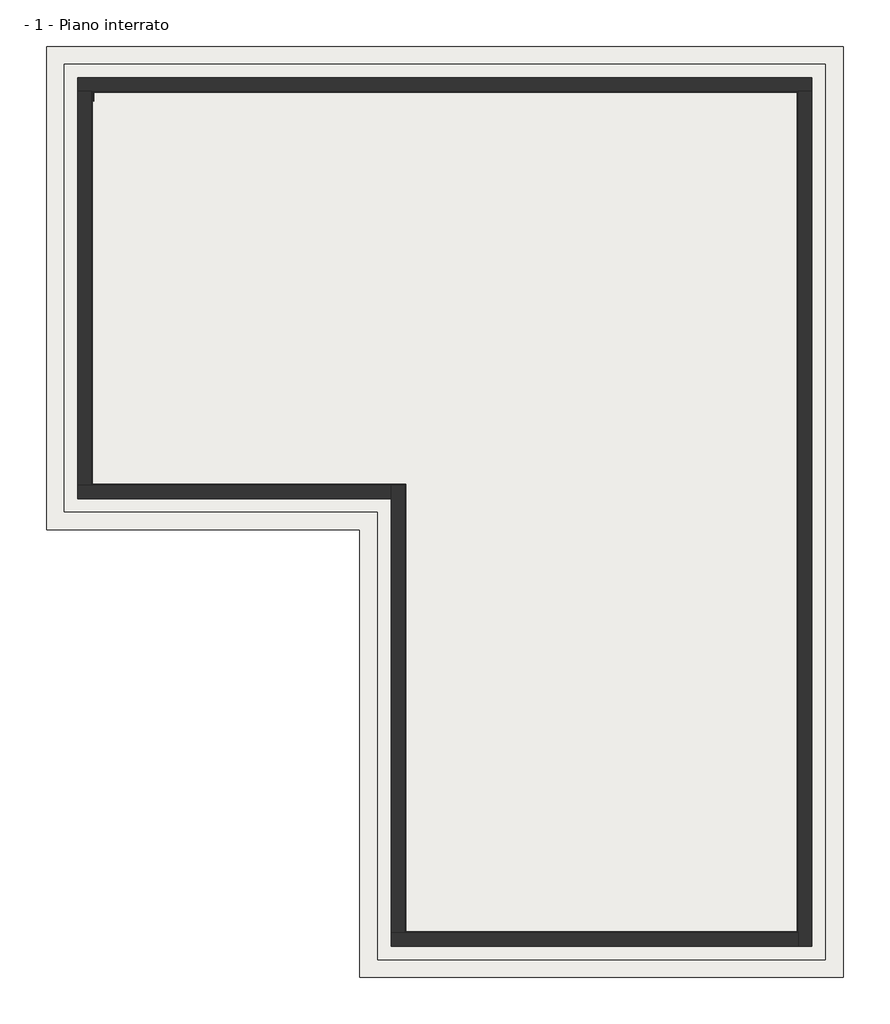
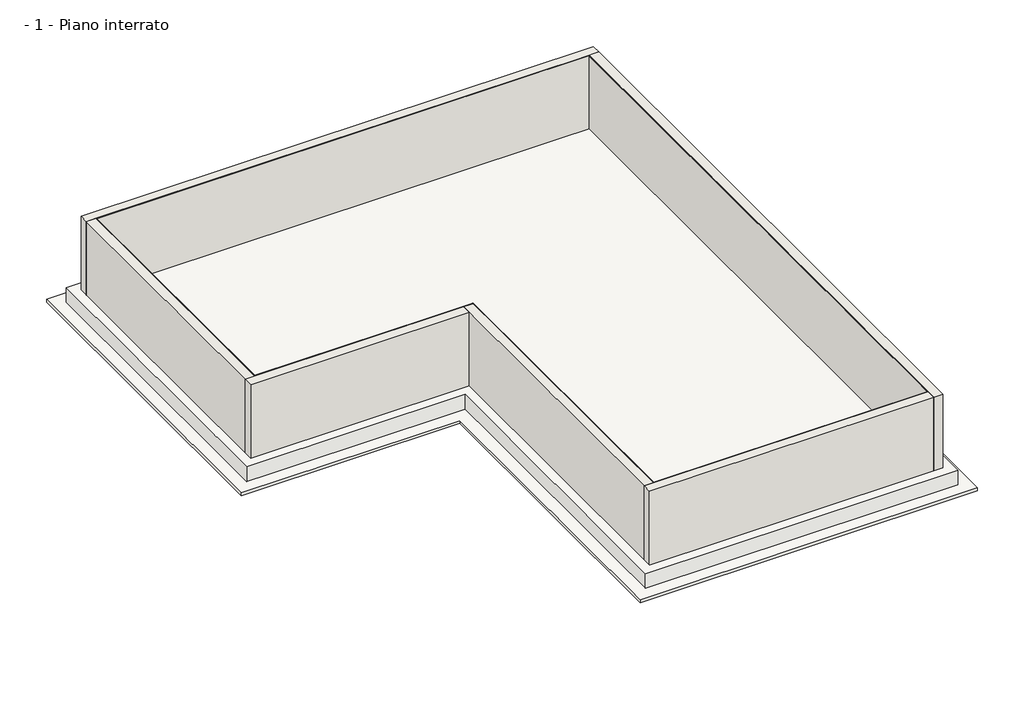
# One storey: 24 walls, 3 slabs, 1 proxy.
"""IFC4 building model written with IfcOpenShell, lengths in millimetres."""

from ifc_helpers import new_model, si_unit, frame, origin, place, context, project, spatial, polyline, outline, extrude, faceted_brep, transform, mapped, element, save
from components import generic_models_3b7ed561

model = new_model("IFC4")

# Units and contexts
model_context = context("Model", 3, world=origin())
ifc_project = project(units=[si_unit("LENGTHUNIT", "METRE", prefix="MILLI")], contexts=[model_context])

# Site, building, storey
site = spatial("IfcSite", under=ifc_project)
building = spatial("IfcBuilding", under=site)
storey = spatial("IfcBuildingStorey", under=building, Name="- 1 - Piano interrato", Elevation=-2500.0)

# Proxy
placement = place(None, origin())
generic_models_shape = generic_models_3b7ed561(model_context)
element("IfcBuildingElementProxy", 1, Name="ITA-Connettori su parete verticale sigillati con AKTI-VO 201 : ITA-Connettori su parete verticale sigillati con AKTI-VO 201", ObjectType="ITA-Connettori su parete verticale sigillati con AKTI-VO 201 : ITA-Connettori su parete verticale sigillati con AKTI-VO 201", at=placement, inside=storey, context=model_context, shape_type="MappedRepresentation", body=[
    mapped(generic_models_shape, transform((-5473.8968209, 9007.648913, -2480.7395958), x_axis=(1.0, 0.0, 0.0), y_axis=(0.0, 0.0, 1.0), z_axis=(0.0, -1.0, 0.0))),
])

# Slabs
element("IfcSlab", 2, ObjectType="BI MORTAR LEVELLING SEAL VOLTECO", at=placement, inside=storey, context=model_context, shape_type="SweptSolid", body=[
    extrude(outline(polyline([(10251.1031791, 9007.648913), (10251.1031791, -9750.351087), (1493.1031791, -9750.351087), (1493.1031791, 249.648913), (-5506.8968209, 249.648913), (-5506.8968209, 9007.648913), (10251.1031791, 9007.648913)])), frame((0.0, 0.0, -2500.0), z_axis=(0.0, 0.0, 1.0), x_axis=(1.0, 0.0, 0.0)), (0.0, 0.0, 1.0), 20.0),
])
element("IfcSlab", 3, ObjectType="Magrone - 10 cm", at=placement, inside=storey, context=model_context, shape_type="SweptSolid", body=[
    extrude(outline(polyline([(-6527.8968209, 10028.648913), (11272.1031791, 10028.648913), (11272.1031791, -10771.351087), (472.1031791, -10771.351087), (472.1031791, -771.351087), (-6527.8968209, -771.351087), (-6527.8968209, 10028.648913)])), frame((0.0, 0.0, -3100.0), z_axis=(0.0, 0.0, 1.0), x_axis=(1.0, 0.0, 0.0)), (0.0, 0.0, 1.0), 100.0),
])
element("IfcSlab", 4, ObjectType="Platea - 50 cm", at=placement, inside=storey, context=model_context, shape_type="SweptSolid", body=[
    extrude(outline(polyline([(-6127.8968209, -371.351087), (-6127.8968209, 9628.648913), (10872.1031791, 9628.648913), (10872.1031791, -10371.351087), (872.1031791, -10371.351087), (872.1031791, -371.351087), (-6127.8968209, -371.351087)])), frame((0.0, 0.0, -3000.0), z_axis=(0.0, 0.0, 1.0), x_axis=(1.0, 0.0, 0.0)), (0.0, 0.0, 1.0), 500.0),
])

# Walls
element("IfcWall", 5, ObjectType="BI MORTAR PLASTER SEAL VOLTECO", at=placement, inside=storey, context=model_context, shape_type="Brep", body=[
    faceted_brep([(-5517.8968209, 228.648913, -2500.0), (-5517.8968209, 238.648913, -2500.0), (-5517.8968209, 239.648913, -2500.0), (-5517.8968209, 9018.648913, -2500.0), (-5517.8968209, 9028.648913, -2500.0), (-5517.8968209, 9028.648913, 0.0), (-5517.8968209, 9018.648913, 0.0), (-5517.8968209, 239.648913, 0.0), (-5517.8968209, 238.648913, 0.0), (-5517.8968209, 228.648913, 0.0), (-5527.8968209, 228.648913, -2500.0), (-5527.8968209, 228.648913, 0.0), (-5527.8968209, 9028.648913, 0.0), (-5527.8968209, 9028.648913, -2500.0)], [[[0, 1, 2, 3, 4, 5, 6, 7, 8, 9]], [[10, 11, 12, 13]], [[4, 3, 2, 1, 0, 10, 13]], [[9, 8, 7, 6, 5, 12, 11]], [[5, 4, 13, 12]], [[0, 9, 11, 10]]]),
])
element("IfcWall", 6, ObjectType="BI MORTAR PLASTER SEAL VOLTECO", at=placement, inside=storey, context=model_context, shape_type="Brep", body=[
    faceted_brep([(-5517.8968209, 9018.648913, -2500.0), (-5516.8968209, 9018.648913, -2500.0), (10262.1031791, 9018.648913, -2500.0), (10272.1031791, 9018.648913, -2500.0), (10272.1031791, 9018.648913, 0.0), (10262.1031791, 9018.648913, 0.0), (-5516.8968209, 9018.648913, 0.0), (-5517.8968209, 9018.648913, 0.0), (-5517.8968209, 9028.648913, -2500.0), (-5517.8968209, 9028.648913, 0.0), (10272.1031791, 9028.648913, 0.0), (10272.1031791, 9028.648913, -2500.0)], [[[0, 1, 2, 3, 4, 5, 6, 7]], [[8, 9, 10, 11]], [[3, 2, 1, 0, 8, 11]], [[7, 6, 5, 4, 10, 9]], [[4, 3, 11, 10]], [[0, 7, 9, 8]]]),
])
element("IfcWall", 7, ObjectType="BI MORTAR PLASTER SEAL VOLTECO", at=placement, inside=storey, context=model_context, shape_type="Brep", body=[
    faceted_brep([(10272.1031791, -9761.351087, -2500.0), (10262.1031791, -9761.351087, -2500.0), (10261.1031791, -9761.351087, -2500.0), (1482.1031791, -9761.351087, -2500.0), (1472.1031791, -9761.351087, -2500.0), (1472.1031791, -9761.351087, 0.0), (1482.1031791, -9761.351087, 0.0), (10261.1031791, -9761.351087, 0.0), (10262.1031791, -9761.351087, 0.0), (10272.1031791, -9761.351087, 0.0), (10272.1031791, -9771.351087, -2500.0), (10272.1031791, -9771.351087, 0.0), (1472.1031791, -9771.351087, 0.0), (1472.1031791, -9771.351087, -2500.0)], [[[0, 1, 2, 3, 4, 5, 6, 7, 8, 9]], [[10, 11, 12, 13]], [[4, 3, 2, 1, 0, 10, 13]], [[9, 8, 7, 6, 5, 12, 11]], [[5, 4, 13, 12]], [[0, 9, 11, 10]]]),
])
element("IfcWall", 8, ObjectType="BI MORTAR PLASTER SEAL VOLTECO", at=placement, inside=storey, context=model_context, shape_type="Brep", body=[
    faceted_brep([(1482.1031791, -9761.351087, -2500.0), (1482.1031791, -9760.351087, -2500.0), (1482.1031791, 238.648913, -2500.0), (1482.1031791, 238.648913, 0.0), (1482.1031791, -9760.351087, 0.0), (1482.1031791, -9761.351087, 0.0), (1472.1031791, -9761.351087, -2500.0), (1472.1031791, -9761.351087, 0.0), (1472.1031791, 228.648913, 0.0), (1472.1031791, 238.648913, 0.0), (1472.1031791, 238.648913, -2500.0), (1472.1031791, 228.648913, -2500.0)], [[[0, 1, 2, 3, 4, 5]], [[6, 7, 8, 9, 10, 11]], [[2, 1, 0, 6, 11, 10]], [[5, 4, 3, 9, 8, 7]], [[0, 5, 7, 6]], [[3, 2, 10, 9]]]),
])
element("IfcWall", 9, ObjectType="BI MORTAR PLASTER SEAL VOLTECO", at=placement, inside=storey, context=model_context, shape_type="SweptSolid", body=[
    extrude(outline(polyline([(-5517.8968209, 238.648913), (1472.1031791, 238.648913), (1472.1031791, 228.648913), (-5517.8968209, 228.648913), (-5517.8968209, 238.648913)])), frame((0.0, 0.0, -2500.0), z_axis=(0.0, 0.0, 1.0), x_axis=(1.0, 0.0, 0.0)), (0.0, 0.0, 1.0), 2500.0),
])
element("IfcWall", 10, ObjectType="RETE REVOMAT VOLTECO", at=placement, inside=storey, context=model_context, shape_type="Brep", body=[
    faceted_brep([(1483.1031791, 239.648913, -2500.0), (-5506.8968209, 239.648913, -2500.0), (-5516.8968209, 239.648913, -2500.0), (-5517.8968209, 239.648913, -2500.0), (-5517.8968209, 239.648913, 0.0), (-5516.8968209, 239.648913, 0.0), (-5506.8968209, 239.648913, 0.0), (1483.1031791, 239.648913, 0.0), (1483.1031791, 238.648913, -2500.0), (1483.1031791, 238.648913, 0.0), (1482.1031791, 238.648913, 0.0), (-5517.8968209, 238.648913, 0.0), (-5517.8968209, 238.648913, -2500.0), (1482.1031791, 238.648913, -2500.0)], [[[0, 1, 2, 3, 4, 5, 6, 7]], [[8, 9, 10, 11, 12, 13]], [[3, 2, 1, 0, 8, 13, 12]], [[7, 6, 5, 4, 11, 10, 9]], [[4, 3, 12, 11]], [[0, 7, 9, 8]]]),
])
element("IfcWall", 11, ObjectType="RETE REVOMAT VOLTECO", at=placement, inside=storey, context=model_context, shape_type="Brep", body=[
    faceted_brep([(-5516.8968209, 239.648913, -2500.0), (-5516.8968209, 9017.648913, -2500.0), (-5516.8968209, 9018.648913, -2500.0), (-5516.8968209, 9018.648913, 0.0), (-5516.8968209, 9017.648913, 0.0), (-5516.8968209, 239.648913, 0.0), (-5517.8968209, 239.648913, -2500.0), (-5517.8968209, 239.648913, 0.0), (-5517.8968209, 9018.648913, 0.0), (-5517.8968209, 9018.648913, -2500.0)], [[[0, 1, 2, 3, 4, 5]], [[6, 7, 8, 9]], [[2, 1, 0, 6, 9]], [[5, 4, 3, 8, 7]], [[3, 2, 9, 8]], [[0, 5, 7, 6]]]),
])
element("IfcWall", 12, ObjectType="BI MORTAR PLASTER SEAL VOLTECO", at=placement, inside=storey, context=model_context, shape_type="Brep", body=[
    faceted_brep([(10262.1031791, 9018.648913, -2500.0), (10262.1031791, 9017.648913, -2500.0), (10262.1031791, -9761.351087, -2500.0), (10262.1031791, -9761.351087, 0.0), (10262.1031791, 9017.648913, 0.0), (10262.1031791, 9018.648913, 0.0), (10272.1031791, 9018.648913, -2500.0), (10272.1031791, 9018.648913, 0.0), (10272.1031791, -9761.351087, 0.0), (10272.1031791, -9761.351087, -2500.0)], [[[0, 1, 2, 3, 4, 5]], [[6, 7, 8, 9]], [[2, 1, 0, 6, 9]], [[5, 4, 3, 8, 7]], [[3, 2, 9, 8]], [[0, 5, 7, 6]]]),
])
element("IfcWall", 13, ObjectType="RETE REVOMAT VOLTECO", at=placement, inside=storey, context=model_context, shape_type="Brep", body=[
    faceted_brep([(-5516.8968209, 9017.648913, -2500.0), (-5506.8968209, 9017.648913, -2500.0), (10261.1031791, 9017.648913, -2500.0), (10262.1031791, 9017.648913, -2500.0), (10262.1031791, 9017.648913, 0.0), (10261.1031791, 9017.648913, 0.0), (-5506.8968209, 9017.648913, 0.0), (-5516.8968209, 9017.648913, 0.0), (-5516.8968209, 9018.648913, -2500.0), (-5516.8968209, 9018.648913, 0.0), (10262.1031791, 9018.648913, 0.0), (10262.1031791, 9018.648913, -2500.0)], [[[0, 1, 2, 3, 4, 5, 6, 7]], [[8, 9, 10, 11]], [[3, 2, 1, 0, 8, 11]], [[7, 6, 5, 4, 10, 9]], [[0, 7, 9, 8]], [[4, 3, 11, 10]]]),
])
element("IfcWall", 14, ObjectType="RETE REVOMAT VOLTECO", at=placement, inside=storey, context=model_context, shape_type="Brep", body=[
    faceted_brep([(10261.1031791, 9017.648913, -2500.0), (10261.1031791, 9007.648913, -2500.0), (10261.1031791, -9760.351087, -2500.0), (10261.1031791, -9761.351087, -2500.0), (10261.1031791, -9761.351087, 0.0), (10261.1031791, -9760.351087, 0.0), (10261.1031791, 9007.648913, 0.0), (10261.1031791, 9017.648913, 0.0), (10262.1031791, 9017.648913, -2500.0), (10262.1031791, 9017.648913, 0.0), (10262.1031791, -9761.351087, 0.0), (10262.1031791, -9761.351087, -2500.0)], [[[0, 1, 2, 3, 4, 5, 6, 7]], [[8, 9, 10, 11]], [[3, 2, 1, 0, 8, 11]], [[7, 6, 5, 4, 10, 9]], [[4, 3, 11, 10]], [[0, 7, 9, 8]]]),
])
element("IfcWall", 15, ObjectType="RETE REVOMAT VOLTECO", at=placement, inside=storey, context=model_context, shape_type="Brep", body=[
    faceted_brep([(10261.1031791, -9760.351087, -2500.0), (10251.1031791, -9760.351087, -2500.0), (1483.1031791, -9760.351087, -2500.0), (1482.1031791, -9760.351087, -2500.0), (1482.1031791, -9760.351087, 0.0), (1483.1031791, -9760.351087, 0.0), (10251.1031791, -9760.351087, 0.0), (10261.1031791, -9760.351087, 0.0), (10261.1031791, -9761.351087, -2500.0), (10261.1031791, -9761.351087, 0.0), (1482.1031791, -9761.351087, 0.0), (1482.1031791, -9761.351087, -2500.0)], [[[0, 1, 2, 3, 4, 5, 6, 7]], [[8, 9, 10, 11]], [[3, 2, 1, 0, 8, 11]], [[7, 6, 5, 4, 10, 9]], [[4, 3, 11, 10]], [[0, 7, 9, 8]]]),
])
element("IfcWall", 16, ObjectType="RETE REVOMAT VOLTECO", at=placement, inside=storey, context=model_context, shape_type="Brep", body=[
    faceted_brep([(1483.1031791, -9760.351087, -2500.0), (1483.1031791, -9750.351087, -2500.0), (1483.1031791, 238.648913, -2500.0), (1483.1031791, 238.648913, 0.0), (1483.1031791, -9750.351087, 0.0), (1483.1031791, -9760.351087, 0.0), (1482.1031791, -9760.351087, -2500.0), (1482.1031791, -9760.351087, 0.0), (1482.1031791, 238.648913, 0.0), (1482.1031791, 238.648913, -2500.0)], [[[0, 1, 2, 3, 4, 5]], [[6, 7, 8, 9]], [[2, 1, 0, 6, 9]], [[5, 4, 3, 8, 7]], [[3, 2, 9, 8]], [[0, 5, 7, 6]]]),
])
element("IfcWall", 17, ObjectType="BI MORTAR PLASTER SEAL VOLTECO", at=placement, inside=storey, context=model_context, shape_type="Brep", body=[
    faceted_brep([(-5506.8968209, 239.648913, -2500.0), (-5506.8968209, 249.648913, -2500.0), (-5506.8968209, 9007.648913, -2500.0), (-5506.8968209, 9017.648913, -2500.0), (-5506.8968209, 9017.648913, 0.0), (-5506.8968209, 9007.648913, 0.0), (-5506.8968209, 249.648913, 0.0), (-5506.8968209, 239.648913, 0.0), (-5516.8968209, 239.648913, -2500.0), (-5516.8968209, 239.648913, 0.0), (-5516.8968209, 9017.648913, 0.0), (-5516.8968209, 9017.648913, -2500.0)], [[[0, 1, 2, 3, 4, 5, 6, 7]], [[8, 9, 10, 11]], [[3, 2, 1, 0, 8, 11]], [[7, 6, 5, 4, 10, 9]], [[0, 7, 9, 8]], [[4, 3, 11, 10]]]),
])
element("IfcWall", 18, ObjectType="BI MORTAR PLASTER SEAL VOLTECO", at=placement, inside=storey, context=model_context, shape_type="Brep", body=[
    faceted_brep([(-5506.8968209, 9007.648913, -2500.0), (10251.1031791, 9007.648913, -2500.0), (10261.1031791, 9007.648913, -2500.0), (10261.1031791, 9007.648913, 0.0), (10251.1031791, 9007.648913, 0.0), (-5506.8968209, 9007.648913, 0.0), (-5506.8968209, 9017.648913, -2500.0), (-5506.8968209, 9017.648913, 0.0), (10261.1031791, 9017.648913, 0.0), (10261.1031791, 9017.648913, -2500.0)], [[[0, 1, 2, 3, 4, 5]], [[6, 7, 8, 9]], [[2, 1, 0, 6, 9]], [[5, 4, 3, 8, 7]], [[3, 2, 9, 8]], [[0, 5, 7, 6]]]),
])
element("IfcWall", 19, ObjectType="BI MORTAR PLASTER SEAL VOLTECO", at=placement, inside=storey, context=model_context, shape_type="Brep", body=[
    faceted_brep([(10251.1031791, 9007.648913, -2500.0), (10251.1031791, -9750.351087, -2500.0), (10251.1031791, -9760.351087, -2500.0), (10251.1031791, -9760.351087, 0.0), (10251.1031791, -9750.351087, 0.0), (10251.1031791, 9007.648913, 0.0), (10261.1031791, 9007.648913, -2500.0), (10261.1031791, 9007.648913, 0.0), (10261.1031791, -9760.351087, 0.0), (10261.1031791, -9760.351087, -2500.0)], [[[0, 1, 2, 3, 4, 5]], [[6, 7, 8, 9]], [[2, 1, 0, 6, 9]], [[5, 4, 3, 8, 7]], [[3, 2, 9, 8]], [[0, 5, 7, 6]]]),
])
element("IfcWall", 20, ObjectType="BI MORTAR PLASTER SEAL VOLTECO", at=placement, inside=storey, context=model_context, shape_type="Brep", body=[
    faceted_brep([(10251.1031791, -9750.351087, -2500.0), (1493.1031791, -9750.351087, -2500.0), (1483.1031791, -9750.351087, -2500.0), (1483.1031791, -9750.351087, 0.0), (1493.1031791, -9750.351087, 0.0), (10251.1031791, -9750.351087, 0.0), (10251.1031791, -9760.351087, -2500.0), (10251.1031791, -9760.351087, 0.0), (1483.1031791, -9760.351087, 0.0), (1483.1031791, -9760.351087, -2500.0)], [[[0, 1, 2, 3, 4, 5]], [[6, 7, 8, 9]], [[2, 1, 0, 6, 9]], [[5, 4, 3, 8, 7]], [[3, 2, 9, 8]], [[0, 5, 7, 6]]]),
])
element("IfcWall", 21, ObjectType="BI MORTAR PLASTER SEAL VOLTECO", at=placement, inside=storey, context=model_context, shape_type="Brep", body=[
    faceted_brep([(1493.1031791, -9750.351087, -2500.0), (1493.1031791, 249.648913, -2500.0), (1493.1031791, 249.648913, -2459.0), (1493.1031791, 249.648913, -2397.0), (1493.1031791, 249.648913, 0.0), (1493.1031791, -9750.351087, 0.0), (1493.1031791, -9750.351087, -2397.0), (1493.1031791, -9750.351087, -2459.0), (1483.1031791, 249.648913, -2500.0), (1483.1031791, 239.648913, -2500.0), (1483.1031791, 238.648913, -2500.0), (1483.1031791, -9750.351087, -2500.0), (1483.1031791, -9750.351087, 0.0), (1483.1031791, 238.648913, 0.0), (1483.1031791, 239.648913, 0.0), (1483.1031791, 249.648913, 0.0), (1483.1031791, 249.648913, -2397.0), (1483.1031791, 249.648913, -2459.0)], [[[0, 1, 2, 3, 4, 5, 6, 7]], [[8, 9, 10, 11, 12, 13, 14, 15, 16, 17]], [[1, 0, 11, 10, 9, 8]], [[5, 4, 15, 14, 13, 12]], [[5, 12, 11, 0, 7, 6]], [[1, 8, 17, 16, 15, 4, 3, 2]]]),
])
element("IfcWall", 22, ObjectType="BI MORTAR PLASTER SEAL VOLTECO", at=placement, inside=storey, context=model_context, shape_type="Brep", body=[
    faceted_brep([(1483.1031791, 249.648913, -2500.0), (-5506.8968209, 249.648913, -2500.0), (-5506.8968209, 249.648913, -2459.0), (-5506.8968209, 249.648913, -2397.0), (-5506.8968209, 249.648913, 0.0), (1483.1031791, 249.648913, 0.0), (1483.1031791, 249.648913, -2397.0), (1483.1031791, 249.648913, -2459.0), (-5506.8968209, 239.648913, -2500.0), (1483.1031791, 239.648913, -2500.0), (1483.1031791, 239.648913, 0.0), (-5506.8968209, 239.648913, 0.0)], [[[0, 1, 2, 3, 4, 5, 6, 7]], [[8, 9, 10, 11]], [[1, 0, 9, 8]], [[5, 4, 11, 10]], [[5, 10, 9, 0, 7, 6]], [[1, 8, 11, 4, 3, 2]]]),
])
element("IfcWall", 23, ObjectType="Generico - 30 cm", at=placement, inside=storey, context=model_context, shape_type="Brep", body=[
    faceted_brep([(-5827.8968209, 9028.648913, -2500.0), (-5527.8968209, 9028.648913, -2500.0), (10272.1031791, 9028.648913, -2500.0), (10572.1031791, 9028.648913, -2500.0), (10572.1031791, 9028.648913, 0.0), (10272.1031791, 9028.648913, 0.0), (-5527.8968209, 9028.648913, 0.0), (-5827.8968209, 9028.648913, 0.0), (-5827.8968209, 9328.648913, -2500.0), (-5827.8968209, 9328.648913, 0.0), (10572.1031791, 9328.648913, 0.0), (10572.1031791, 9328.648913, -2500.0)], [[[0, 1, 2, 3, 4, 5, 6, 7]], [[8, 9, 10, 11]], [[3, 2, 1, 0, 8, 11]], [[7, 6, 5, 4, 10, 9]], [[4, 3, 11, 10]], [[0, 7, 9, 8]]]),
])
element("IfcWall", 24, ObjectType="Generico - 30 cm", at=placement, inside=storey, context=model_context, shape_type="Brep", body=[
    faceted_brep([(10272.1031791, 9028.648913, -2500.0), (10272.1031791, -9771.351087, -2500.0), (10272.1031791, -10071.351087, -2500.0), (10272.1031791, -10071.351087, 0.0), (10272.1031791, -9771.351087, 0.0), (10272.1031791, 9028.648913, 0.0), (10572.1031791, 9028.648913, -2500.0), (10572.1031791, 9028.648913, 0.0), (10572.1031791, -10071.351087, 0.0), (10572.1031791, -10071.351087, -2500.0)], [[[0, 1, 2, 3, 4, 5]], [[6, 7, 8, 9]], [[2, 1, 0, 6, 9]], [[5, 4, 3, 8, 7]], [[0, 5, 7, 6]], [[3, 2, 9, 8]]]),
])
element("IfcWall", 25, ObjectType="Generico - 30 cm", at=placement, inside=storey, context=model_context, shape_type="Brep", body=[
    faceted_brep([(10272.1031791, -9771.351087, -2500.0), (1472.1031791, -9771.351087, -2500.0), (1172.1031791, -9771.351087, -2500.0), (1172.1031791, -9771.351087, 0.0), (1472.1031791, -9771.351087, 0.0), (10272.1031791, -9771.351087, 0.0), (10272.1031791, -10071.351087, -2500.0), (10272.1031791, -10071.351087, 0.0), (1172.1031791, -10071.351087, 0.0), (1172.1031791, -10071.351087, -2500.0)], [[[0, 1, 2, 3, 4, 5]], [[6, 7, 8, 9]], [[2, 1, 0, 6, 9]], [[5, 4, 3, 8, 7]], [[0, 5, 7, 6]], [[3, 2, 9, 8]]]),
])
element("IfcWall", 26, ObjectType="Generico - 30 cm", at=placement, inside=storey, context=model_context, shape_type="Brep", body=[
    faceted_brep([(1472.1031791, -9771.351087, -2500.0), (1472.1031791, 228.648913, -2500.0), (1472.1031791, 228.648913, 0.0), (1472.1031791, -9771.351087, 0.0), (1172.1031791, -9771.351087, -2500.0), (1172.1031791, -9771.351087, 0.0), (1172.1031791, -71.351087, 0.0), (1172.1031791, 228.648913, 0.0), (1172.1031791, 228.648913, -2500.0), (1172.1031791, -71.351087, -2500.0)], [[[0, 1, 2, 3]], [[4, 5, 6, 7, 8, 9]], [[1, 0, 4, 9, 8]], [[3, 2, 7, 6, 5]], [[0, 3, 5, 4]], [[2, 1, 8, 7]]]),
])
element("IfcWall", 27, ObjectType="Generico - 30 cm", at=placement, inside=storey, context=model_context, shape_type="Brep", body=[
    faceted_brep([(1172.1031791, 228.648913, -2500.0), (-5527.8968209, 228.648913, -2500.0), (-5827.8968209, 228.648913, -2500.0), (-5827.8968209, 228.648913, 0.0), (-5527.8968209, 228.648913, 0.0), (1172.1031791, 228.648913, 0.0), (1172.1031791, -71.351087, -2500.0), (1172.1031791, -71.351087, 0.0), (-5827.8968209, -71.351087, 0.0), (-5827.8968209, -71.351087, -2500.0)], [[[0, 1, 2, 3, 4, 5]], [[6, 7, 8, 9]], [[2, 1, 0, 6, 9]], [[5, 4, 3, 8, 7]], [[0, 5, 7, 6]], [[3, 2, 9, 8]]]),
])
element("IfcWall", 28, ObjectType="Generico - 30 cm", at=placement, inside=storey, context=model_context, shape_type="SweptSolid", body=[
    extrude(outline(polyline([(-5527.8968209, 9028.648913), (-5527.8968209, 228.648913), (-5827.8968209, 228.648913), (-5827.8968209, 9028.648913), (-5527.8968209, 9028.648913)])), frame((0.0, 0.0, -2500.0), z_axis=(0.0, 0.0, 1.0), x_axis=(1.0, 0.0, 0.0)), (0.0, 0.0, 1.0), 2500.0),
])

save(model, "model.ifc")
